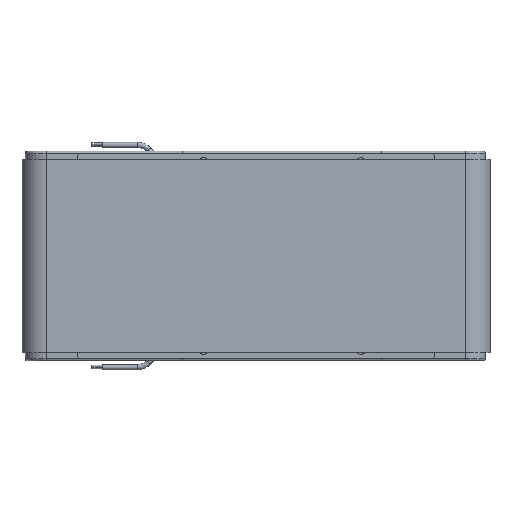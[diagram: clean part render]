
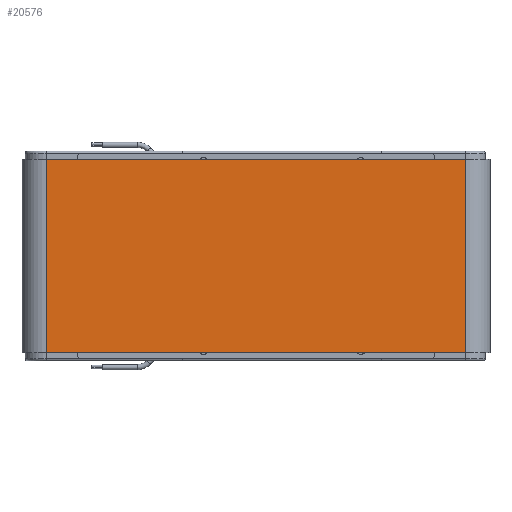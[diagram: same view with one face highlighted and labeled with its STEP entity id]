
A CAD part, left-side view. The second image highlights one B-rep face of the part: STEP entity #20576.
In plain terms, the highlighted planar face has unit normal (-1, 0, 0).
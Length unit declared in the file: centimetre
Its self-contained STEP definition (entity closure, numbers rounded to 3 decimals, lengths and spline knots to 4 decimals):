
#2168=FACE_OUTER_BOUND('',#3302,.T.);
#3302=EDGE_LOOP('',(#13806,#13807,#13808,#13809));
#4704=LINE('',#30289,#6309);
#4705=LINE('',#30294,#6310);
#4707=LINE('',#30298,#6312);
#4708=LINE('',#30299,#6313);
#6309=VECTOR('',#24738,1.);
#6310=VECTOR('',#24743,1.);
#6312=VECTOR('',#24747,1.);
#6313=VECTOR('',#24748,1.);
#8111=VERTEX_POINT('',#30283);
#8113=VERTEX_POINT('',#30287);
#8115=VERTEX_POINT('',#30292);
#8116=VERTEX_POINT('',#30297);
#10318=EDGE_CURVE('',#8111,#8113,#4704,.T.);
#10320=EDGE_CURVE('',#8115,#8113,#4705,.T.);
#10322=EDGE_CURVE('',#8115,#8116,#4707,.T.);
#10323=EDGE_CURVE('',#8116,#8111,#4708,.T.);
#13806=ORIENTED_EDGE('',*,*,#10322,.T.);
#13807=ORIENTED_EDGE('',*,*,#10323,.T.);
#13808=ORIENTED_EDGE('',*,*,#10318,.T.);
#13809=ORIENTED_EDGE('',*,*,#10320,.F.);
#18843=PLANE('',#21973);
#20576=ADVANCED_FACE('',(#2168),#18843,.T.);
#21973=AXIS2_PLACEMENT_3D('',#30296,#24745,#24746);
#24738=DIRECTION('',(0.,1.,0.));
#24743=DIRECTION('',(0.,0.,1.));
#24745=DIRECTION('center_axis',(-1.,0.,0.));
#24746=DIRECTION('ref_axis',(0.,0.,
1.));
#24747=DIRECTION('',(0.,-1.,0.));
#24748=DIRECTION('',(0.,0.,1.));
#30283=CARTESIAN_POINT('',(-2.33,-27.,9.25));
#30287=CARTESIAN_POINT('',(-2.33,13.,9.25));
#30289=CARTESIAN_POINT('',(-2.33,13.,9.25));
#30292=CARTESIAN_POINT('',(-2.33,13.,-9.25));
#30294=CARTESIAN_POINT('',(-2.33,13.,0.));
#30296=CARTESIAN_POINT('Origin',(-2.33,13.,0.));
#30297=CARTESIAN_POINT('',(-2.33,-27.,-9.25));
#30298=CARTESIAN_POINT('',(-2.33,13.,-9.25));
#30299=CARTESIAN_POINT('',(-2.33,-27.,0.));
